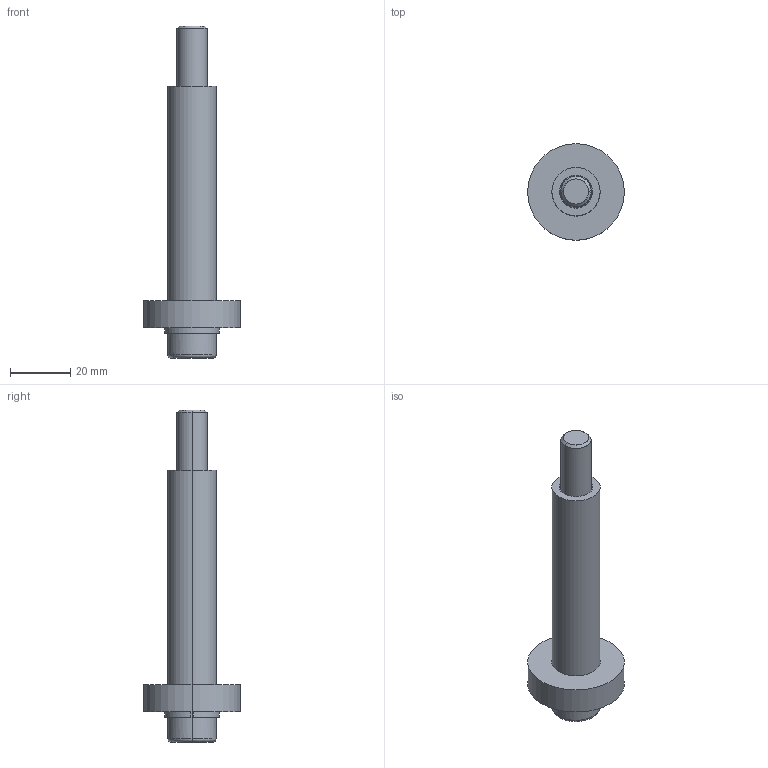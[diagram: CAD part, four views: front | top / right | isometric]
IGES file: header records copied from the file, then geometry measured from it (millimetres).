
Start section: START RECORD GO HERE.
Global section: file name: M312-08-10.igs; native system: DASSAULT SYSTEMES CATIA V5 R20 - www.3ds.com; preprocessor: CATIA Version 5 Release 20 ; author: Utente; organization: NB04-ASUS; date: 20201204.202936; units: millimetre
Bounding box: 32 x 32 x 110 mm (x, y, z)
Surface area: 12602.6 mm2 (no closed solid volume)
Topology: 0 solids, 0 shells, 43 faces, 188 edges, 186 vertices
Faces by surface type: revolution 22, plane 21
